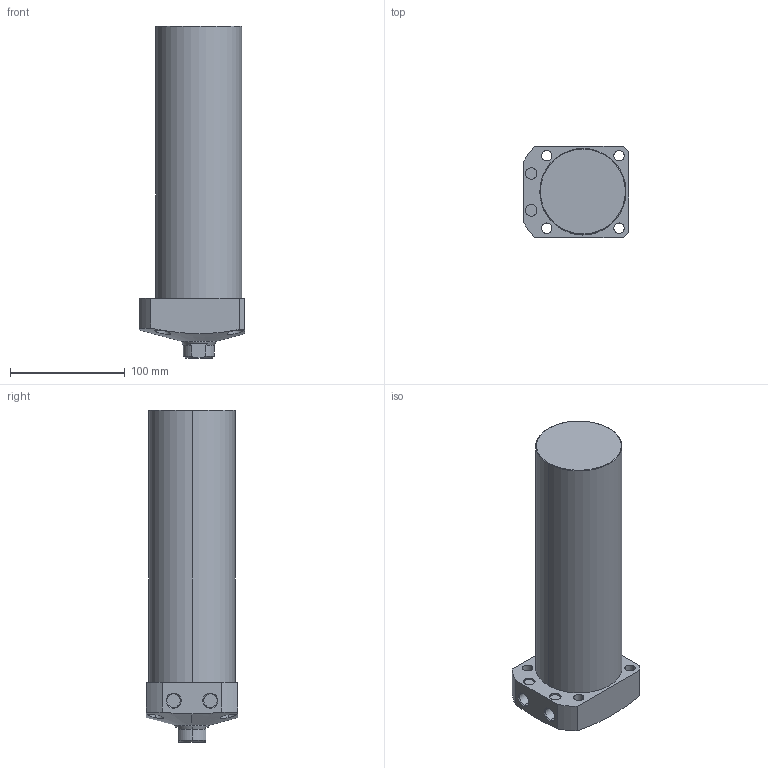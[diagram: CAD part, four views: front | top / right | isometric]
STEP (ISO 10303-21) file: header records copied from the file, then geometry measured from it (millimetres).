
FILE_DESCRIPTION (( 'STEP AP203' ), '1' );
FILE_NAME ('CLL-075CA-200.STEP', '2019-12-23T09:04:18', ( '' ), ( '' ), 'SwSTEP 2.0', 'SolidWorks 2015', '' );
FILE_SCHEMA (( 'CONFIG_CONTROL_DESIGN' ));
Length unit declared in the file: millimetre
Products named in the file (1): CLL-075CA-200
Bounding box: 92 x 80 x 289 mm (x, y, z)
Volume: 1266091.9 mm3; surface area: 88176.2 mm2
Topology: 1 solids, 1 shells, 74 faces, 171 edges, 108 vertices
Faces by surface type: cylinder 35, plane 22, cone 15, torus 2
Entity records: 2610 total; most frequent: CARTESIAN_POINT 815, DIRECTION 376, ORIENTED_EDGE 338, EDGE_CURVE 169, AXIS2_PLACEMENT_3D 156, VERTEX_POINT 108, EDGE_LOOP 93, CIRCLE 81
